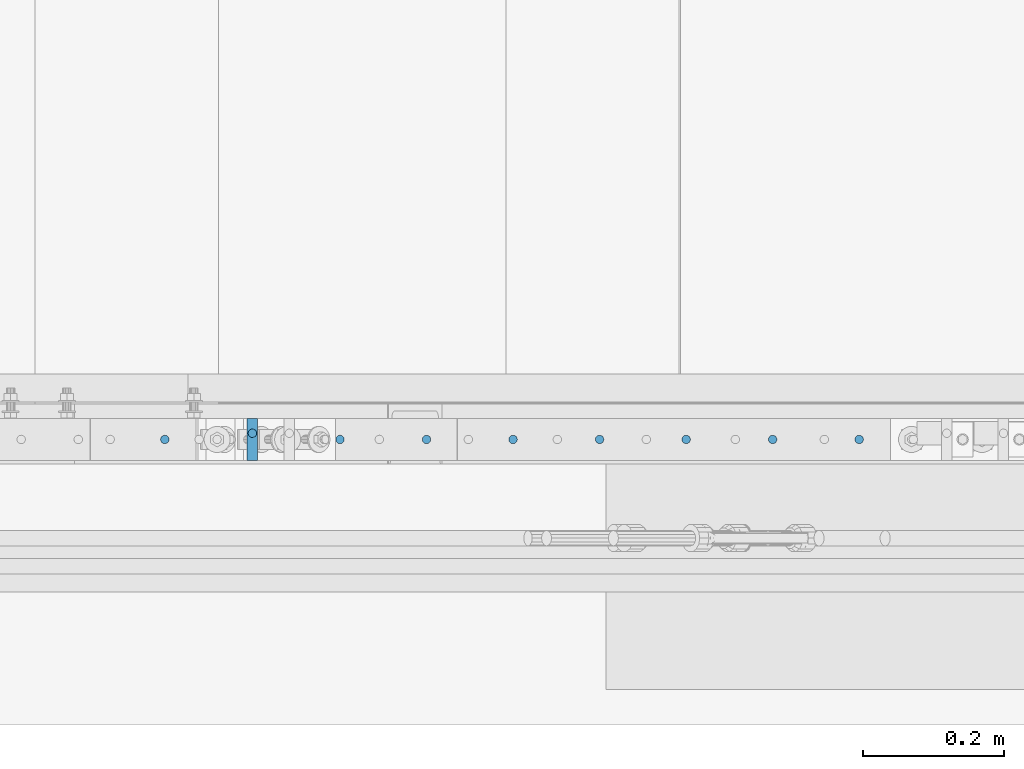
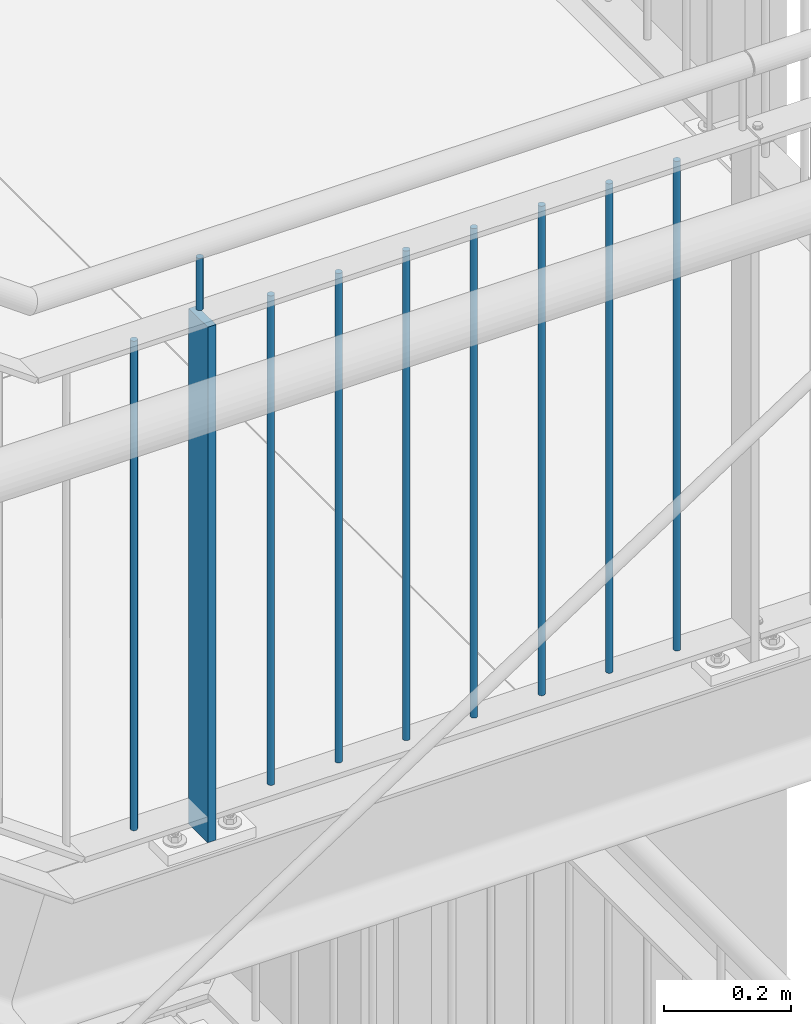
# One storey, part 85 of 825: 10 columns.
"""IFC2X3 building model written with IfcOpenShell, lengths in millimetres."""

from ifc_helpers import new_model, entity, si_unit, converted_unit, frame, origin, origin_with_axes, origin_2d, place, context, project, spatial, rectangle, circle, extrude, clip, halfspace, material, element, save


model = new_model("IFC2X3")

# Units and contexts
model_context = context("Model", 3, precision=1e-09, world=origin_with_axes())
ifc_project = project(units=[si_unit("LENGTHUNIT", "METRE", prefix="MILLI"), si_unit("AREAUNIT", "SQUARE_METRE"), si_unit("VOLUMEUNIT", "CUBIC_METRE"), converted_unit("PLANEANGLEUNIT", "DEGREE", entity("IfcPlaneAngleMeasure", 0.01745329), si_unit("PLANEANGLEUNIT", "RADIAN"), dimensions=[0, 0, 0, 0, 0, 0, 0])], contexts=[model_context])

# Site, building, storey
site_placement = place(None, origin_with_axes())
site = spatial("IfcSite", under=ifc_project, at=site_placement, Name="Cnopf'sche Kinderklinik", CompositionType="ELEMENT")
building_placement = place(site_placement, origin_with_axes())
building = spatial("IfcBuilding", under=site, at=building_placement, Name="Struktur 1", CompositionType="ELEMENT")
storey_placement = place(building_placement, origin_with_axes())
storey = spatial("IfcBuildingStorey", under=building, at=storey_placement, Name="Default Storey", CompositionType="ELEMENT", Elevation=0.0)

# Columns
ifc_material = material(Name="S235JR")
column_1_placement = place(None, frame((7364.792117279, 4526.736971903, 17563.723292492), z_axis=(0.0, 0.0, 1.0), x_axis=(-1.0, 0.0, 0.0)))
element("IfcColumn", 1, at=column_1_placement, inside=storey, material=ifc_material, Name="Railing_Post_Landing#9", ObjectType="Railing_Post_Landing#9", context=model_context, shape_type="Clipping", body=[
    clip(clip(extrude(rectangle(XDim=15.0, YDim=60.0, at=origin_2d()), origin(), (0.0, 0.0, -1.0), 1070.646584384), halfspace(frame((7364.792117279, 4526.736971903, -1019.722292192), z_axis=(0.0, 0.0, 1.0), x_axis=(-1.0, 0.0, 0.0)), True)), halfspace(frame((7364.792117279, 4526.736971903, -30.924292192), z_axis=(0.0, 0.0, -1.0), x_axis=(1.0, 0.0, 0.0)), True)),
])
column_2_placement = place(None, frame((8225.542260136, 4526.736971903, 17546.285281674), z_axis=(0.0, 0.0, 1.0), x_axis=(-1.0, 0.0, 0.0)))
element("IfcColumn", 2, at=column_2_placement, inside=storey, material=ifc_material, Name="Railing_Picket_Landing#55", ObjectType="Railing_Picket_Landing#55", context=model_context, shape_type="Clipping", body=[
    clip(clip(extrude(circle(Radius=6.0, at=origin_2d()), origin(), (0.0, 0.0, -1.0), 965.770562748), halfspace(frame((8225.542260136, 4526.736971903, -13.486281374), z_axis=(0.0, 0.0, -1.0), x_axis=(1.0, 0.0, 0.0)), True)), halfspace(frame((8225.542260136, 4526.736971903, -952.284281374), z_axis=(0.0, 0.0, 1.0), x_axis=(-1.0, 0.0, 0.0)), True)),
])
column_3_placement = place(None, frame((8102.792236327, 4526.736971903, 17546.285281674), z_axis=(0.0, 0.0, 1.0), x_axis=(-1.0, 0.0, 0.0)))
element("IfcColumn", 3, at=column_3_placement, inside=storey, material=ifc_material, Name="Railing_Picket_Landing#56", ObjectType="Railing_Picket_Landing#56", context=model_context, shape_type="Clipping", body=[
    clip(clip(extrude(circle(Radius=6.0, at=origin_2d()), origin(), (0.0, 0.0, -1.0), 965.770562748), halfspace(frame((8102.792236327, 4526.736971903, -13.486281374), z_axis=(0.0, 0.0, -1.0), x_axis=(1.0, 0.0, 0.0)), True)), halfspace(frame((8102.792236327, 4526.736971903, -952.284281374), z_axis=(0.0, 0.0, 1.0), x_axis=(-1.0, 0.0, 0.0)), True)),
])
column_4_placement = place(None, frame((7980.042212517, 4526.736971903, 17546.285281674), z_axis=(0.0, 0.0, 1.0), x_axis=(-1.0, 0.0, 0.0)))
element("IfcColumn", 4, at=column_4_placement, inside=storey, material=ifc_material, Name="Railing_Picket_Landing#57", ObjectType="Railing_Picket_Landing#57", context=model_context, shape_type="Clipping", body=[
    clip(clip(extrude(circle(Radius=6.0, at=origin_2d()), origin(), (0.0, 0.0, -1.0), 965.770562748), halfspace(frame((7980.042212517, 4526.736971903, -13.486281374), z_axis=(0.0, 0.0, -1.0), x_axis=(1.0, 0.0, 0.0)), True)), halfspace(frame((7980.042212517, 4526.736971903, -952.284281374), z_axis=(0.0, 0.0, 1.0), x_axis=(-1.0, 0.0, 0.0)), True)),
])
column_5_placement = place(None, frame((7857.292188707, 4526.736971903, 17546.285281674), z_axis=(0.0, 0.0, 1.0), x_axis=(-1.0, 0.0, 0.0)))
element("IfcColumn", 5, at=column_5_placement, inside=storey, material=ifc_material, Name="Railing_Picket_Landing#58", ObjectType="Railing_Picket_Landing#58", context=model_context, shape_type="Clipping", body=[
    clip(clip(extrude(circle(Radius=6.0, at=origin_2d()), origin(), (0.0, 0.0, -1.0), 965.770562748), halfspace(frame((7857.292188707, 4526.736971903, -13.486281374), z_axis=(0.0, 0.0, -1.0), x_axis=(1.0, 0.0, 0.0)), True)), halfspace(frame((7857.292188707, 4526.736971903, -952.284281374), z_axis=(0.0, 0.0, 1.0), x_axis=(-1.0, 0.0, 0.0)), True)),
])
column_6_placement = place(None, frame((7734.542164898, 4526.736971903, 17546.285281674), z_axis=(0.0, 0.0, 1.0), x_axis=(-1.0, 0.0, 0.0)))
element("IfcColumn", 6, at=column_6_placement, inside=storey, material=ifc_material, Name="Railing_Picket_Landing#59", ObjectType="Railing_Picket_Landing#59", context=model_context, shape_type="Clipping", body=[
    clip(clip(extrude(circle(Radius=6.0, at=origin_2d()), origin(), (0.0, 0.0, -1.0), 965.770562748), halfspace(frame((7734.542164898, 4526.736971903, -13.486281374), z_axis=(0.0, 0.0, -1.0), x_axis=(1.0, 0.0, 0.0)), True)), halfspace(frame((7734.542164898, 4526.736971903, -952.284281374), z_axis=(0.0, 0.0, 1.0), x_axis=(-1.0, 0.0, 0.0)), True)),
])
column_7_placement = place(None, frame((7611.792141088, 4526.736971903, 17546.285281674), z_axis=(0.0, 0.0, 1.0), x_axis=(-1.0, 0.0, 0.0)))
element("IfcColumn", 7, at=column_7_placement, inside=storey, material=ifc_material, Name="Railing_Picket_Landing#60", ObjectType="Railing_Picket_Landing#60", context=model_context, shape_type="Clipping", body=[
    clip(clip(extrude(circle(Radius=6.0, at=origin_2d()), origin(), (0.0, 0.0, -1.0), 965.770562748), halfspace(frame((7611.792141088, 4526.736971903, -13.486281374), z_axis=(0.0, 0.0, -1.0), x_axis=(1.0, 0.0, 0.0)), True)), halfspace(frame((7611.792141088, 4526.736971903, -952.284281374), z_axis=(0.0, 0.0, 1.0), x_axis=(-1.0, 0.0, 0.0)), True)),
])
column_8_placement = place(None, frame((7489.042117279, 4526.736971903, 17546.285281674), z_axis=(0.0, 0.0, 1.0), x_axis=(-1.0, 0.0, 0.0)))
element("IfcColumn", 8, at=column_8_placement, inside=storey, material=ifc_material, Name="Railing_Picket_Landing#61", ObjectType="Railing_Picket_Landing#61", context=model_context, shape_type="Clipping", body=[
    clip(clip(extrude(circle(Radius=6.0, at=origin_2d()), origin(), (0.0, 0.0, -1.0), 965.770562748), halfspace(frame((7489.042117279, 4526.736971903, -13.486281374), z_axis=(0.0, 0.0, -1.0), x_axis=(1.0, 0.0, 0.0)), True)), halfspace(frame((7489.042117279, 4526.736971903, -952.284281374), z_axis=(0.0, 0.0, 1.0), x_axis=(-1.0, 0.0, 0.0)), True)),
])
column_9_placement = place(None, frame((7240.542117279, 4526.736971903, 17546.285281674), z_axis=(0.0, 0.0, 1.0), x_axis=(-1.0, 0.0, 0.0)))
element("IfcColumn", 9, at=column_9_placement, inside=storey, material=ifc_material, Name="Railing_Picket_Landing#62", ObjectType="Railing_Picket_Landing#62", context=model_context, shape_type="Clipping", body=[
    clip(clip(extrude(circle(Radius=6.0, at=origin_2d()), origin(), (0.0, 0.0, -1.0), 965.770562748), halfspace(frame((7240.542117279, 4526.736971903, -13.486281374), z_axis=(0.0, 0.0, -1.0), x_axis=(1.0, 0.0, 0.0)), True)), halfspace(frame((7240.542117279, 4526.736971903, -952.284281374), z_axis=(0.0, 0.0, 1.0), x_axis=(-1.0, 0.0, 0.0)), True)),
])
column_10_placement = place(None, frame((7364.792117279, 4535.536971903, 17651.285281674), z_axis=(0.0, 0.0, 1.0), x_axis=(0.0, 1.0, 0.0)))
element("IfcColumn", 10, at=column_10_placement, inside=storey, material=ifc_material, Name="Bar#9", ObjectType="Bar#9", context=model_context, shape_type="Clipping", body=[
    clip(clip(extrude(circle(Radius=6.0, at=origin_2d()), origin(), (0.0, 0.0, -1.0), 116.970562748), halfspace(frame((-4535.536971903, 7364.792117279, -8.486281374), z_axis=(0.0, 0.0, -1.0), x_axis=(0.0, 1.0, 0.0)), True)), halfspace(frame((-4535.536971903, 7364.792117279, -108.484281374), z_axis=(0.0, 0.0, 1.0), x_axis=(0.0, -1.0, 0.0)), True)),
])

save(model, "model.ifc")
